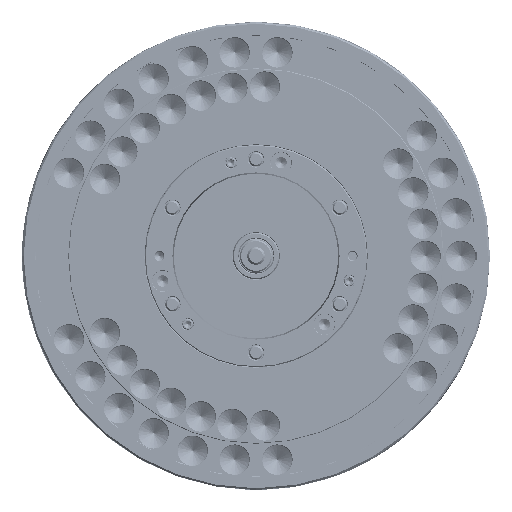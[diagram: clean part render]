
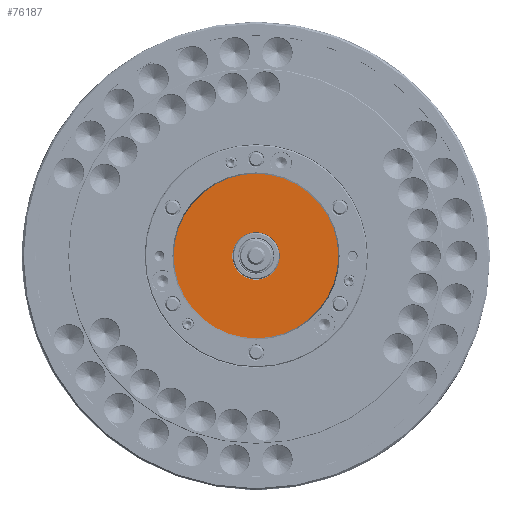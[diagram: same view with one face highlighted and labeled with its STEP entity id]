
A CAD part, left-side view. The second image highlights one B-rep face of the part: STEP entity #76187.
In plain terms, the highlighted planar face has unit normal (-1, 0, 0).
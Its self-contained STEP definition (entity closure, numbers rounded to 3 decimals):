
#9560 = FACE_BOUND ( 'NONE', #176714, .T. ) ;
#28978 = VERTEX_POINT ( 'NONE', #181884 ) ;
#37998 = EDGE_LOOP ( 'NONE', ( #133380, #316162 ) ) ;
#55002 = CARTESIAN_POINT ( 'NONE',  ( -145., 0., 0. ) ) ;
#55963 = ORIENTED_EDGE ( 'NONE', *, *, #245847, .F. ) ;
#57751 = CARTESIAN_POINT ( 'NONE',  ( -145., 0., -40.6 ) ) ;
#61502 = CARTESIAN_POINT ( 'NONE',  ( -145., 140.7, 0. ) ) ;
#76187 = ADVANCED_FACE ( 'NONE', ( #9560, #111898 ), #113544, .F. ) ;
#77354 = DIRECTION ( 'NONE',  ( 0., 0., 1. ) ) ;
#84359 = ORIENTED_EDGE ( 'NONE', *, *, #158750, .F. ) ;
#101096 = VERTEX_POINT ( 'NONE', #114456 ) ;
#106867 = DIRECTION ( 'NONE',  ( -1., 0., 0. ) ) ;
#108591 = DIRECTION ( 'NONE',  ( 1., 0., 0. ) ) ;
#111898 = FACE_OUTER_BOUND ( 'NONE', #37998, .T. ) ;
#113544 = PLANE ( 'NONE',  #192121 ) ;
#114456 = CARTESIAN_POINT ( 'NONE',  ( -145., 0., 40.6 ) ) ;
#131946 = EDGE_CURVE ( 'NONE', #28978, #232441, #246839, .T. ) ;
#133380 = ORIENTED_EDGE ( 'NONE', *, *, #199180, .T. ) ;
#151989 = CARTESIAN_POINT ( 'NONE',  ( -145., 0., 140.7 ) ) ;
#156749 = AXIS2_PLACEMENT_3D ( 'NONE', #55002, #259738, #209415 ) ;
#158750 = EDGE_CURVE ( 'NONE', #249258, #101096, #164232, .T. ) ;
#158944 = AXIS2_PLACEMENT_3D ( 'NONE', #289792, #106867, #162238 ) ;
#162238 = DIRECTION ( 'NONE',  ( 0., 0., 1. ) ) ;
#164232 = CIRCLE ( 'NONE', #158944, 40.6 ) ;
#176714 = EDGE_LOOP ( 'NONE', ( #55963, #84359 ) ) ;
#181884 = CARTESIAN_POINT ( 'NONE',  ( -145., 0., -140.7 ) ) ;
#192121 = AXIS2_PLACEMENT_3D ( 'NONE', #61502, #108591, #214309 ) ;
#197127 = AXIS2_PLACEMENT_3D ( 'NONE', #202032, #329503, #205321 ) ;
#199180 = EDGE_CURVE ( 'NONE', #232441, #28978, #317483, .T. ) ;
#202032 = CARTESIAN_POINT ( 'NONE',  ( -145., 0., 0. ) ) ;
#205321 = DIRECTION ( 'NONE',  ( 0., 0., 1. ) ) ;
#209415 = DIRECTION ( 'NONE',  ( 0., 0., 1. ) ) ;
#214309 = DIRECTION ( 'NONE',  ( 0., 0., -1. ) ) ;
#229008 = CIRCLE ( 'NONE', #197127, 40.6 ) ;
#232441 = VERTEX_POINT ( 'NONE', #151989 ) ;
#235054 = CARTESIAN_POINT ( 'NONE',  ( -145., 0., 0. ) ) ;
#245847 = EDGE_CURVE ( 'NONE', #101096, #249258, #229008, .T. ) ;
#246839 = CIRCLE ( 'NONE', #321785, 140.7 ) ;
#249258 = VERTEX_POINT ( 'NONE', #57751 ) ;
#259738 = DIRECTION ( 'NONE',  ( -1., 0., 0. ) ) ;
#289792 = CARTESIAN_POINT ( 'NONE',  ( -145., 0., 0. ) ) ;
#313860 = DIRECTION ( 'NONE',  ( -1., 0., 0. ) ) ;
#316162 = ORIENTED_EDGE ( 'NONE', *, *, #131946, .T. ) ;
#317483 = CIRCLE ( 'NONE', #156749, 140.7 ) ;
#321785 = AXIS2_PLACEMENT_3D ( 'NONE', #235054, #313860, #77354 ) ;
#329503 = DIRECTION ( 'NONE',  ( -1., 0., 0. ) ) ;
